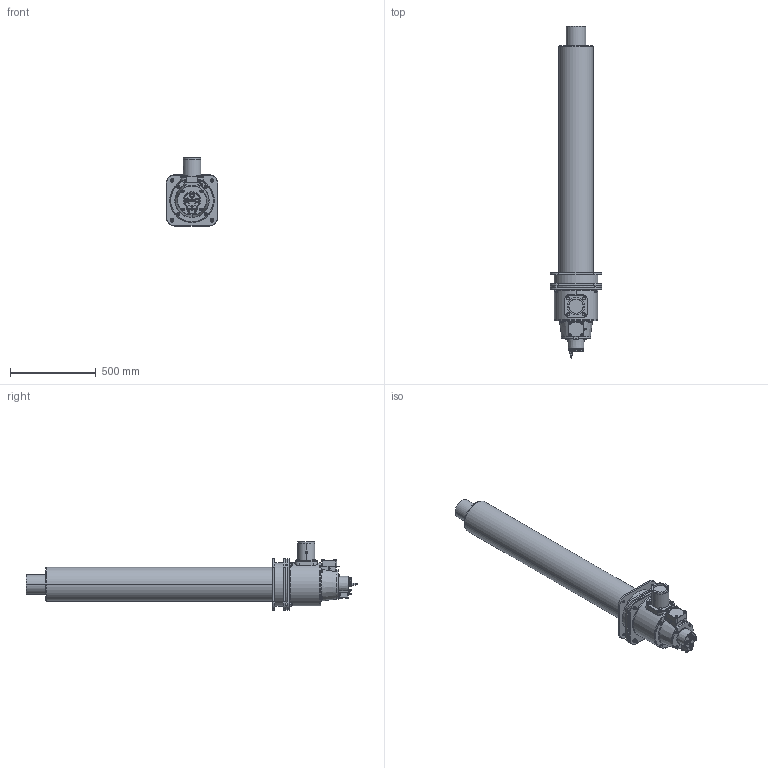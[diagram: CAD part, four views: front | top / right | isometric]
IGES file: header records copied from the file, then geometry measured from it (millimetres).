
Global section: file name: No Iges File Name specified; native system: AutoDesk Inventor R12.0; preprocessor: AutoDesk Inventor Iges Exporter R12.0; date: 20110916.132509; units: millimetre
Bounding box: 300 x 1937.37 x 398 mm (x, y, z)
Volume: 62678453.2 mm3; surface area: 1801146 mm2
Topology: 24 solids, 24 shells, 2188 faces, 5219 edges, 3113 vertices
Faces by surface type: plane 914, cone 434, cylinder 405, bspline 257, revolution 131, torus 47
Full cylindrical faces by diameter (mm): 14.8 x12, 21.1 x4
